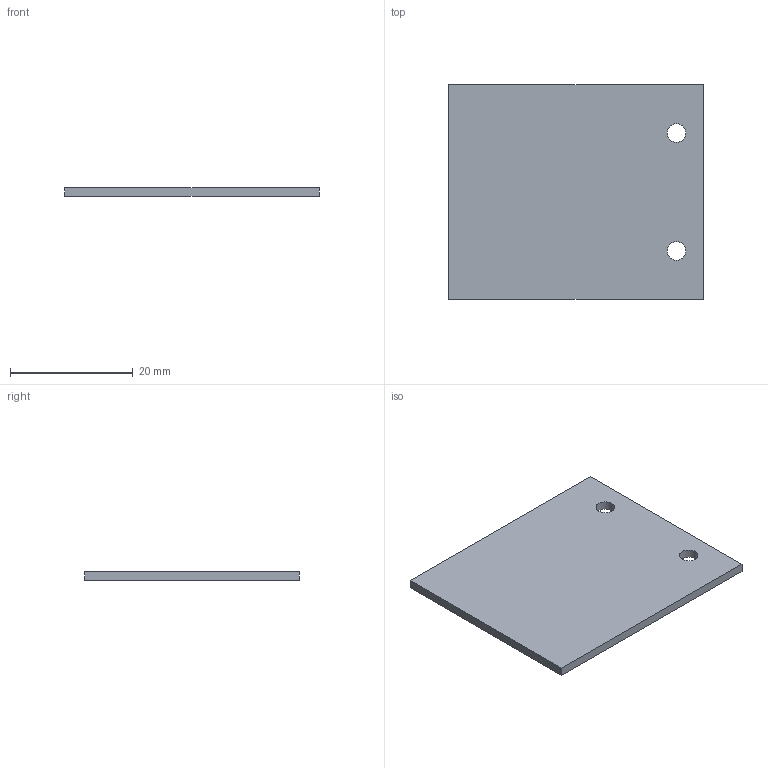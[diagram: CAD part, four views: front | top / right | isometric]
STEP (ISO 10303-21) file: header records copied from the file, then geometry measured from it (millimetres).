
FILE_DESCRIPTION(('HOOPS Exchange Step'),'2;1');
FILE_NAME('C:/Users/a0506362/Desktop/ansys/AOP/final_3d_step files/flat radome polycarbonate.step','2025-02-18T14:55:23+05:30',('a0506362'),('Unknown organisation'),'HOOPS Exchange 2024.0','HOOPS Exchange','Unknown authorisation');
FILE_SCHEMA( ('AP242_MANAGED_MODEL_BASED_3D_ENGINEERING_MIM_LF {1 0 10303 442 1 1 4 }') );
Length unit declared in the file: millimetre
Products named in the file (1): Box1
Bounding box: 41.5 x 35 x 1.46 mm (x, y, z)
Volume: 2099.6 mm3; surface area: 3127.3 mm2
Topology: 1 solids, 1 shells, 8 faces, 18 edges, 12 vertices
Faces by surface type: plane 6, cylinder 2
Full cylindrical faces by diameter (mm): 3.03 x2
Entity records: 294 total; most frequent: DIRECTION 42, CARTESIAN_POINT 40, ORIENTED_EDGE 36, EDGE_CURVE 18, AXIS2_PLACEMENT_3D 14, VECTOR 14, LINE 14, VERTEX_POINT 12
